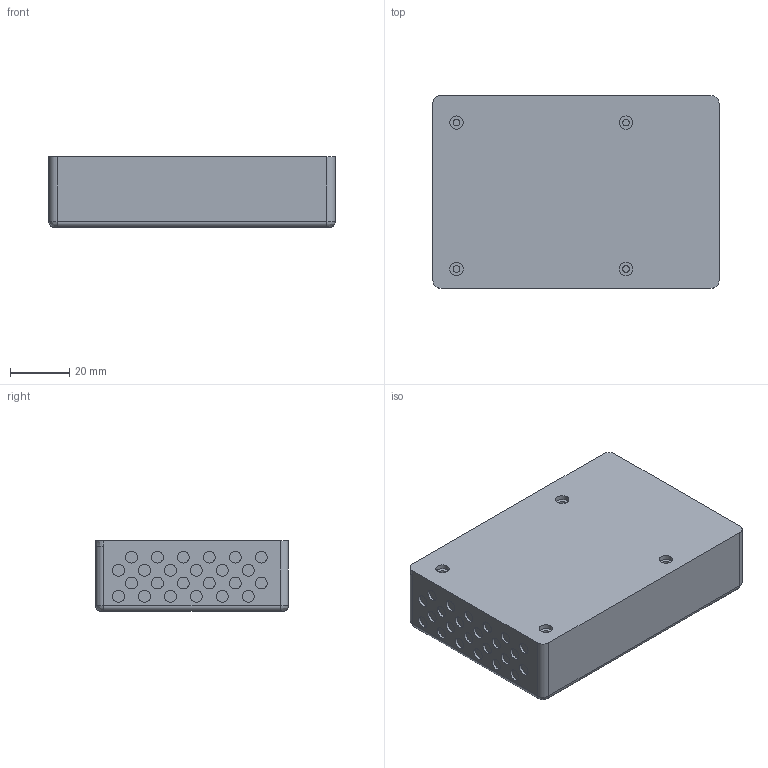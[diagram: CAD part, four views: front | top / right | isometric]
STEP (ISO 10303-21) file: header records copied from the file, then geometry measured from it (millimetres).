
FILE_DESCRIPTION(/* description */ (''),/* implementation_level */ '2;1');
FILE_NAME(/* name */ 'Gateway.stp',/* time_stamp */ '2026-09-25T12:33:53+02:00',/* author */ (''),/* organization */ (''),/* preprocessor_version */ 'ST-DEVELOPER v20',/* originating_system */ 'SIEMENS PLM Software NX2312.9162',/* authorisation */ '');
FILE_SCHEMA (('AUTOMOTIVE_DESIGN { 1 0 10303 214 3 1 1 1 }'));
Length unit declared in the file: millimetre
Products named in the file (1): Gateway_objects
Bounding box: 97 x 65.4 x 24 mm (x, y, z)
Volume: 149853.9 mm3; surface area: 21476.5 mm2
Topology: 1 solids, 1 shells, 116 faces, 229 edges, 150 vertices
Faces by surface type: plane 63, cylinder 48, bspline 4, extrusion 1
Full cylindrical faces by diameter (mm): 2.3 x4, 4 x24, 4.5 x4
Entity records: 2928 total; most frequent: CARTESIAN_POINT 533, DIRECTION 520, ORIENTED_EDGE 394, AXIS2_PLACEMENT_3D 212, EDGE_CURVE 197, EDGE_LOOP 183, VERTEX_POINT 150, ADVANCED_FACE 116
